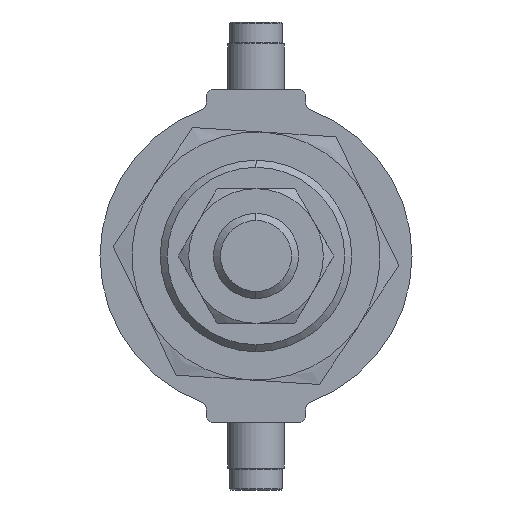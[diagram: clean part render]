
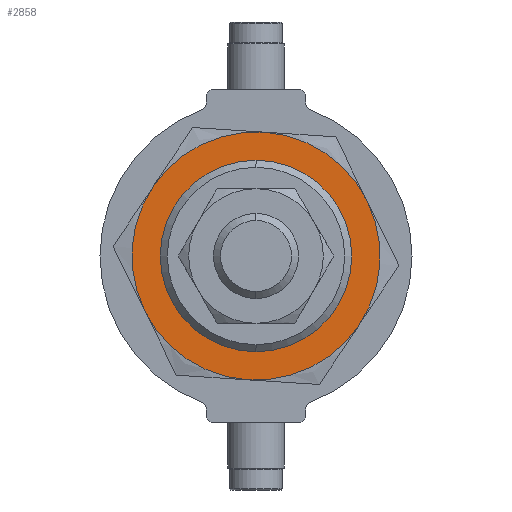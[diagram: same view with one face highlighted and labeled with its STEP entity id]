
A CAD part, left-side view. The second image highlights one B-rep face of the part: STEP entity #2858.
In plain terms, the highlighted planar face has unit normal (-1, 0, 0) as drawn and (0, 0, -1) by its records, which use the part's own axes.
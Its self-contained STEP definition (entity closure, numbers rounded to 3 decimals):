
#151 = ORIENTED_EDGE ( 'NONE', *, *, #3523, .T. ) ;
#258 = DIRECTION ( 'NONE',  ( 0., 0., 1. ) ) ;
#316 = CARTESIAN_POINT ( 'NONE',  ( 0., 0., -1.5 ) ) ;
#326 = EDGE_LOOP ( 'NONE', ( #2397, #3337, #659, #1563, #835, #3770 ) ) ;
#339 = FACE_BOUND ( 'NONE', #3496, .T. ) ;
#344 = EDGE_CURVE ( 'NONE', #4384, #1950, #1990, .T. ) ;
#493 = CARTESIAN_POINT ( 'NONE',  ( -12.5, 0., -1.5 ) ) ;
#515 = CARTESIAN_POINT ( 'NONE',  ( -17.5, 0., -1.5 ) ) ;
#609 = FACE_OUTER_BOUND ( 'NONE', #326, .T. ) ;
#644 = AXIS2_PLACEMENT_3D ( 'NONE', #3372, #1261, #3800 ) ;
#659 = ORIENTED_EDGE ( 'NONE', *, *, #2234, .F. ) ;
#728 = CIRCLE ( 'NONE', #644, 17.5 ) ;
#733 = CIRCLE ( 'NONE', #2329, 17.5 ) ;
#792 = AXIS2_PLACEMENT_3D ( 'NONE', #2861, #1787, #3889 ) ;
#835 = ORIENTED_EDGE ( 'NONE', *, *, #3997, .F. ) ;
#889 = EDGE_CURVE ( 'NONE', #1968, #1677, #4066, .T. ) ;
#909 = AXIS2_PLACEMENT_3D ( 'NONE', #3146, #3536, #1027 ) ;
#937 = CARTESIAN_POINT ( 'NONE',  ( -8.75, -15.155, -1.5 ) ) ;
#939 = AXIS2_PLACEMENT_3D ( 'NONE', #1167, #3299, #2258 ) ;
#1027 = DIRECTION ( 'NONE',  ( 1., 0., 0. ) ) ;
#1091 = CIRCLE ( 'NONE', #3025, 12.5 ) ;
#1167 = CARTESIAN_POINT ( 'NONE',  ( 0., 0., -1.5 ) ) ;
#1222 = DIRECTION ( 'NONE',  ( 0., 0., 1. ) ) ;
#1261 = DIRECTION ( 'NONE',  ( 0., 0., 1. ) ) ;
#1397 = VERTEX_POINT ( 'NONE', #3356 ) ;
#1513 = VERTEX_POINT ( 'NONE', #937 ) ;
#1563 = ORIENTED_EDGE ( 'NONE', *, *, #3018, .F. ) ;
#1614 = DIRECTION ( 'NONE',  ( 1., 0., 0. ) ) ;
#1625 = CARTESIAN_POINT ( 'NONE',  ( 17.5, 0., -1.5 ) ) ;
#1665 = CARTESIAN_POINT ( 'NONE',  ( 0., 0., -1.5 ) ) ;
#1677 = VERTEX_POINT ( 'NONE', #493 ) ;
#1748 = EDGE_CURVE ( 'NONE', #1950, #1397, #733, .T. ) ;
#1769 = VERTEX_POINT ( 'NONE', #4375 ) ;
#1787 = DIRECTION ( 'NONE',  ( 0., 0., 1. ) ) ;
#1866 = CIRCLE ( 'NONE', #909, 17.5 ) ;
#1950 = VERTEX_POINT ( 'NONE', #1625 ) ;
#1968 = VERTEX_POINT ( 'NONE', #3405 ) ;
#1990 = CIRCLE ( 'NONE', #3918, 17.5 ) ;
#2088 = DIRECTION ( 'NONE',  ( 0., 0., 1. ) ) ;
#2161 = VERTEX_POINT ( 'NONE', #515 ) ;
#2234 = EDGE_CURVE ( 'NONE', #1513, #4384, #728, .T. ) ;
#2258 = DIRECTION ( 'NONE',  ( 1., 0., 0. ) ) ;
#2329 = AXIS2_PLACEMENT_3D ( 'NONE', #3687, #1222, #2660 ) ;
#2397 = ORIENTED_EDGE ( 'NONE', *, *, #1748, .F. ) ;
#2469 = EDGE_CURVE ( 'NONE', #1397, #1769, #3465, .T. ) ;
#2660 = DIRECTION ( 'NONE',  ( 1., 0., 0. ) ) ;
#2778 = ORIENTED_EDGE ( 'NONE', *, *, #889, .T. ) ;
#2857 = DIRECTION ( 'NONE',  ( 1., 0., 0. ) ) ;
#2858 = ADVANCED_FACE ( 'NONE', ( #339, #609 ), #3489, .F. ) ;
#2861 = CARTESIAN_POINT ( 'NONE',  ( 0., 0., -1.5 ) ) ;
#3018 = EDGE_CURVE ( 'NONE', #2161, #1513, #3244, .T. ) ;
#3025 = AXIS2_PLACEMENT_3D ( 'NONE', #316, #3941, #2857 ) ;
#3098 = DIRECTION ( 'NONE',  ( 1., 0., 0. ) ) ;
#3107 = DIRECTION ( 'NONE',  ( 1., 0., 0. ) ) ;
#3146 = CARTESIAN_POINT ( 'NONE',  ( 0., 0., -1.5 ) ) ;
#3244 = CIRCLE ( 'NONE', #939, 17.5 ) ;
#3299 = DIRECTION ( 'NONE',  ( 0., 0., 1. ) ) ;
#3313 = AXIS2_PLACEMENT_3D ( 'NONE', #4407, #3719, #1614 ) ;
#3337 = ORIENTED_EDGE ( 'NONE', *, *, #344, .F. ) ;
#3356 = CARTESIAN_POINT ( 'NONE',  ( 8.75, 15.155, -1.5 ) ) ;
#3372 = CARTESIAN_POINT ( 'NONE',  ( 0., 0., -1.5 ) ) ;
#3405 = CARTESIAN_POINT ( 'NONE',  ( 12.5, 0., -1.5 ) ) ;
#3465 = CIRCLE ( 'NONE', #792, 17.5 ) ;
#3489 = PLANE ( 'NONE',  #3783 ) ;
#3496 = EDGE_LOOP ( 'NONE', ( #2778, #151 ) ) ;
#3523 = EDGE_CURVE ( 'NONE', #1677, #1968, #1091, .T. ) ;
#3536 = DIRECTION ( 'NONE',  ( 0., 0., 1. ) ) ;
#3687 = CARTESIAN_POINT ( 'NONE',  ( 0., 0., -1.5 ) ) ;
#3719 = DIRECTION ( 'NONE',  ( 0., 0., 1. ) ) ;
#3770 = ORIENTED_EDGE ( 'NONE', *, *, #2469, .F. ) ;
#3783 = AXIS2_PLACEMENT_3D ( 'NONE', #3840, #2088, #3098 ) ;
#3800 = DIRECTION ( 'NONE',  ( 1., 0., 0. ) ) ;
#3840 = CARTESIAN_POINT ( 'NONE',  ( 0., 0., -1.5 ) ) ;
#3889 = DIRECTION ( 'NONE',  ( 1., 0., 0. ) ) ;
#3918 = AXIS2_PLACEMENT_3D ( 'NONE', #1665, #258, #3107 ) ;
#3941 = DIRECTION ( 'NONE',  ( 0., 0., 1. ) ) ;
#3997 = EDGE_CURVE ( 'NONE', #1769, #2161, #1866, .T. ) ;
#4066 = CIRCLE ( 'NONE', #3313, 12.5 ) ;
#4192 = CARTESIAN_POINT ( 'NONE',  ( 8.75, -15.155, -1.5 ) ) ;
#4375 = CARTESIAN_POINT ( 'NONE',  ( -8.75, 15.155, -1.5 ) ) ;
#4384 = VERTEX_POINT ( 'NONE', #4192 ) ;
#4407 = CARTESIAN_POINT ( 'NONE',  ( 0., 0., -1.5 ) ) ;
